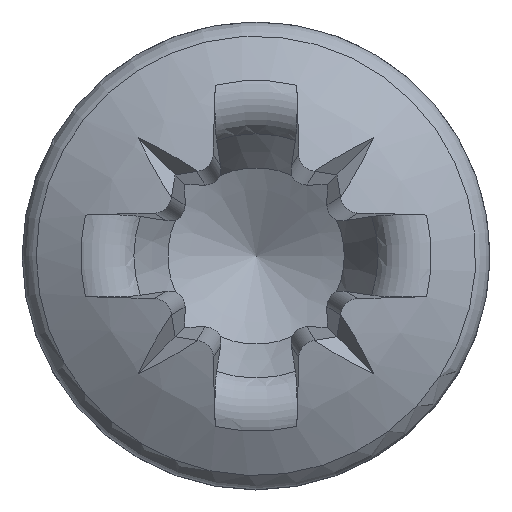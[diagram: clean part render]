
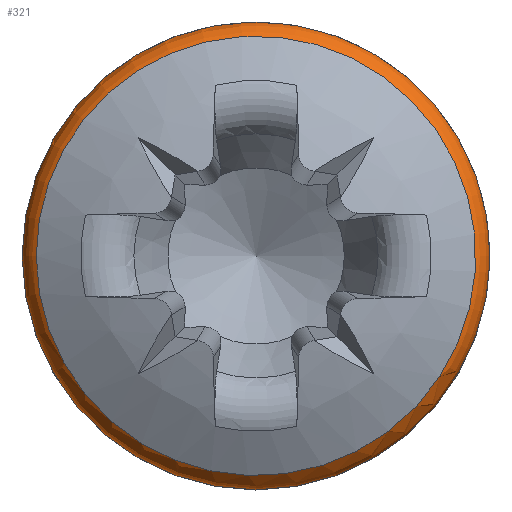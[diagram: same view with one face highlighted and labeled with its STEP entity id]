
A CAD part, top view. The second image highlights one B-rep face of the part: STEP entity #321.
In plain terms, the highlighted toroidal (fillet/blend) face has major radius 1.517 mm and minor radius 0.233 mm.
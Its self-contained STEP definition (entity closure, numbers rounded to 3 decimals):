
#243=TOROIDAL_SURFACE('',#1614,1.517,0.233);
#258=FACE_BOUND('',#510,.T.);
#259=FACE_BOUND('',#511,.T.);
#321=ADVANCED_FACE('',(#258,#259),#243,.T.);
#510=EDGE_LOOP('',(#877));
#511=EDGE_LOOP('',(#878));
#558=CIRCLE('',#1524,1.644);
#584=CIRCLE('',#1555,1.75);
#877=ORIENTED_EDGE('',*,*,#1256,.F.);
#878=ORIENTED_EDGE('',*,*,#1216,.F.);
#1071=VERTEX_POINT('',#3233);
#1109=VERTEX_POINT('',#3556);
#1216=EDGE_CURVE('',#1071,#1071,#558,.T.);
#1256=EDGE_CURVE('',#1109,#1109,#584,.T.);
#1524=AXIS2_PLACEMENT_3D('',#3232,#1633,#1634);
#1555=AXIS2_PLACEMENT_3D('',#3555,#1695,#1696);
#1614=AXIS2_PLACEMENT_3D('',#4030,#1843,#1844);
#1633=DIRECTION('',(0.,0.,1.));
#1634=DIRECTION('',(-1.,0.,0.));
#1695=DIRECTION('',(0.,0.,-1.));
#1696=DIRECTION('',(-1.,0.,0.));
#1843=DIRECTION('',(0.,0.,-1.));
#1844=DIRECTION('',(-1.,0.,0.));
#3232=CARTESIAN_POINT('',(0.,0.,0.912));
#3233=CARTESIAN_POINT('',(-1.644,0.,0.912));
#3555=CARTESIAN_POINT('',(0.,0.,0.717));
#3556=CARTESIAN_POINT('',(-1.75,0.,0.717));
#4030=CARTESIAN_POINT('',(0.,0.,0.717));
